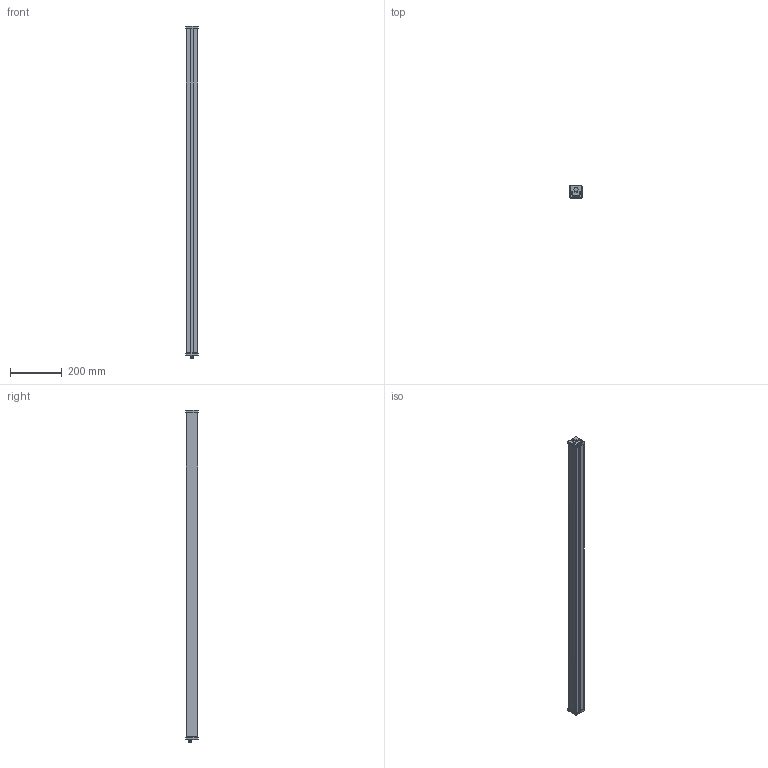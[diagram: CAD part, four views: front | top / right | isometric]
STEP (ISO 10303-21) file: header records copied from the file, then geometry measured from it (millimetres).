
FILE_DESCRIPTION (( 'STEP AP214' ), '1' );
FILE_NAME ('BLBAR 50.STEP', '2012-02-13T13:40:35', ( ' ' ), ( '' ), 'SwSTEP 2.0', 'SolidWorks 2009', '' );
FILE_SCHEMA (( 'AUTOMOTIVE_DESIGN' ));
Length unit declared in the file: millimetre
Products named in the file (1): BLBAR 50
Bounding box: 47.2 x 47 x 1287.1 mm (x, y, z)
Volume: 645721.9 mm3; surface area: 642004.3 mm2
Topology: 1 solids, 3 shells, 599 faces, 1564 edges, 1007 vertices
Faces by surface type: plane 311, cylinder 156, bspline 66, torus 38, cone 20, sphere 8
Entity records: 34060 total; most frequent: CARTESIAN_POINT 13050, ORIENTED_EDGE 3096, DIRECTION 2810, EDGE_CURVE 1548, VERTEX_POINT 999, VECTOR 950, LINE 950, AXIS2_PLACEMENT_3D 930
